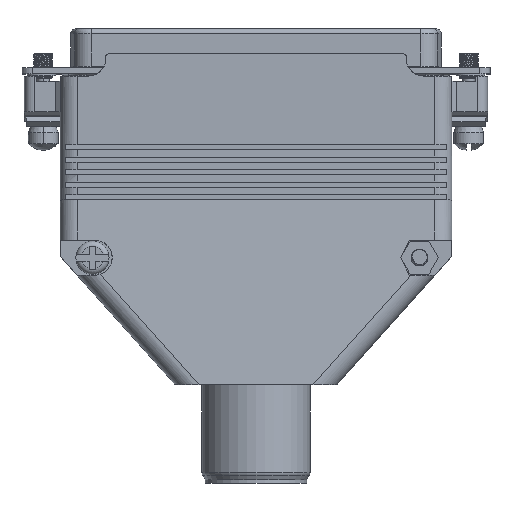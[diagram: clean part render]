
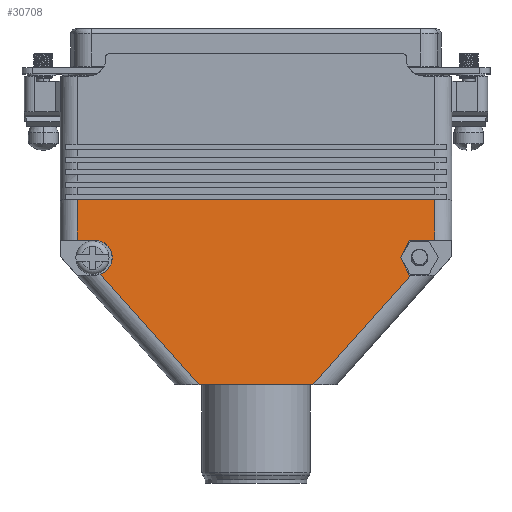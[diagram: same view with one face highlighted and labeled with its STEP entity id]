
A CAD part, top view. The second image highlights one B-rep face of the part: STEP entity #30708.
In plain terms, the highlighted planar face has unit normal (0, 0.093, 0.996).
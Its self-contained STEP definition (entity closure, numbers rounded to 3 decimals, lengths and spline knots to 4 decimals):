
#1512=DIRECTION('',(-1.,0.,0.));
#1513=VECTOR('',#1512,0.6644);
#1514=CARTESIAN_POINT('',(1.6826,0.0747,
0.3839));
#1515=LINE('',#1514,#1513);
#1563=DIRECTION('',(1.,0.,0.));
#1564=VECTOR('',#1563,0.102);
#1565=CARTESIAN_POINT('',(0.3071,0.917,0.3055));
#1566=LINE('',#1565,#1564);
#1571=DIRECTION('',(0.,-0.996,0.093));
#1572=VECTOR('',#1571,0.2376);
#1573=CARTESIAN_POINT('',(0.3071,1.1535,0.2835));
#1574=LINE('',#1573,#1572);
#3018=DIRECTION('',(-1.,0.,0.));
#3019=VECTOR('',#3018,0.0077);
#3020=CARTESIAN_POINT('',(2.253,0.7122,
0.3246));
#3021=LINE('',#3020,#3019);
#3040=DIRECTION('',(-0.665,-0.743,0.069));
#3041=VECTOR('',#3040,0.8575);
#3042=CARTESIAN_POINT('',(2.253,0.7122,
0.3246));
#3043=LINE('',#3042,#3041);
#3044=DIRECTION('',(-0.665,0.743,-0.069));
#3045=VECTOR('',#3044,0.8651);
#3046=CARTESIAN_POINT('',(1.0182,0.0747,
0.3839));
#3047=LINE('',#3046,#3045);
#3048=CARTESIAN_POINT('',(0.4427,0.7179,
0.3241));
#3049=CARTESIAN_POINT('',(0.4487,0.72,
0.3239));
#3050=CARTESIAN_POINT('',(0.4556,0.7233,
0.3236));
#3051=CARTESIAN_POINT('',(0.4636,0.7279,
0.3231));
#3052=CARTESIAN_POINT('',(0.4698,0.7321,
0.3227));
#3053=CARTESIAN_POINT('',(0.4767,0.7375,
0.3222));
#3054=CARTESIAN_POINT('',(0.4834,0.744,
0.3216));
#3055=CARTESIAN_POINT('',(0.4898,0.7515,
0.3209));
#3056=CARTESIAN_POINT('',(0.495,0.7587,
0.3203));
#3057=CARTESIAN_POINT('',(0.5006,0.7682,
0.3194));
#3058=CARTESIAN_POINT('',(0.5057,0.7797,
0.3183));
#3059=CARTESIAN_POINT('',(0.5095,0.7932,
0.3171));
#3060=CARTESIAN_POINT('',(0.512,0.8107,
0.3154));
#3061=CARTESIAN_POINT('',(0.511,0.8318,
0.3135));
#3062=CARTESIAN_POINT('',(0.505,0.8521,
0.3116));
#3063=CARTESIAN_POINT('',(0.4968,0.8678,
0.3101));
#3064=CARTESIAN_POINT('',(0.4888,0.8793,
0.309));
#3065=CARTESIAN_POINT('',(0.4803,0.8885,
0.3082));
#3066=CARTESIAN_POINT('',(0.4718,0.8956,
0.3075));
#3067=CARTESIAN_POINT('',(0.4646,0.9007,
0.307));
#3068=CARTESIAN_POINT('',(0.4561,0.9057,
0.3066));
#3069=CARTESIAN_POINT('',(0.4476,0.9096,
0.3062));
#3070=CARTESIAN_POINT('',(0.4393,0.9125,
0.306));
#3071=CARTESIAN_POINT('',(0.4321,0.9144,
0.3058));
#3072=CARTESIAN_POINT('',(0.423,0.9161,
0.3056));
#3073=CARTESIAN_POINT('',(0.4154,0.917,
0.3055));
#3074=CARTESIAN_POINT('',(0.4091,0.917,0.3055));
#3076=DIRECTION('',(1.,0.,0.));
#3077=VECTOR('',#3076,2.0866);
#3078=CARTESIAN_POINT('',(0.3071,1.1535,0.2835));
#3079=LINE('',#3078,#3077);
#3080=DIRECTION('',(-0.437,-0.896,0.083));
#3081=VECTOR('',#3080,0.1143);
#3082=CARTESIAN_POINT('',(2.2453,0.917,0.3055));
#3083=LINE('',#3082,#3081);
#3084=DIRECTION('',(0.437,-0.896,0.083));
#3085=VECTOR('',#3084,0.1143);
#3086=CARTESIAN_POINT('',(2.1953,0.8146,
0.3151));
#3087=LINE('',#3086,#3085);
#3160=DIRECTION('',(0.,0.996,-0.093));
#3161=VECTOR('',#3160,0.2376);
#3162=CARTESIAN_POINT('',(2.3937,0.917,0.3055));
#3163=LINE('',#3162,#3161);
#3172=DIRECTION('',(1.,0.,0.));
#3173=VECTOR('',#3172,0.1484);
#3174=CARTESIAN_POINT('',(2.2453,0.917,0.3055));
#3175=LINE('',#3174,#3173);
#24162=CARTESIAN_POINT('',(0.3071,1.1535,0.2835));
#24163=CARTESIAN_POINT('',(2.3937,1.1535,0.2835));
#24164=VERTEX_POINT('',#24162);
#24165=VERTEX_POINT('',#24163);
#24166=CARTESIAN_POINT('',(2.253,0.7122,
0.3246));
#24167=CARTESIAN_POINT('',(1.6826,0.0747,
0.3839));
#24168=VERTEX_POINT('',#24166);
#24169=VERTEX_POINT('',#24167);
#24170=CARTESIAN_POINT('',(2.2453,0.7122,0.3246));
#24171=VERTEX_POINT('',#24170);
#24172=CARTESIAN_POINT('',(2.1953,0.8146,
0.3151));
#24173=VERTEX_POINT('',#24172);
#24174=CARTESIAN_POINT('',(2.2453,0.917,0.3055));
#24175=VERTEX_POINT('',#24174);
#24176=CARTESIAN_POINT('',(2.3937,0.917,0.3055));
#24177=VERTEX_POINT('',#24176);
#24178=CARTESIAN_POINT('',(0.3071,0.917,0.3055));
#24179=VERTEX_POINT('',#24178);
#24180=CARTESIAN_POINT('',(0.4091,0.917,0.3055));
#24181=VERTEX_POINT('',#24180);
#24182=VERTEX_POINT('',#3048);
#24183=CARTESIAN_POINT('',(1.0182,0.0747,
0.3839));
#24184=VERTEX_POINT('',#24183);
#30683=CARTESIAN_POINT('',(1.3504,0.6141,0.3337));
#30684=DIRECTION('',(0.,0.093,0.996));
#30685=DIRECTION('',(0.,-0.996,0.093));
#30686=AXIS2_PLACEMENT_3D('',#30683,#30684,#30685);
#30687=PLANE('',#30686);
#30688=ORIENTED_EDGE('',*,*,#30675,.T.);
#30689=ORIENTED_EDGE('',*,*,#28758,.T.);
#30691=ORIENTED_EDGE('',*,*,#30690,.T.);
#30693=ORIENTED_EDGE('',*,*,#30692,.T.);
#30694=ORIENTED_EDGE('',*,*,#28816,.F.);
#30695=ORIENTED_EDGE('',*,*,#28834,.F.);
#30697=ORIENTED_EDGE('',*,*,#30696,.T.);
#30699=ORIENTED_EDGE('',*,*,#30698,.F.);
#30701=ORIENTED_EDGE('',*,*,#30700,.F.);
#30703=ORIENTED_EDGE('',*,*,#30702,.T.);
#30704=ORIENTED_EDGE('',*,*,#30646,.T.);
#30705=ORIENTED_EDGE('',*,*,#30663,.F.);
#30706=EDGE_LOOP('',(#30688,#30689,#30691,#30693,#30694,#30695,#30697,#30699,
#30701,#30703,#30704,#30705));
#30707=FACE_OUTER_BOUND('',#30706,.F.);
#30708=ADVANCED_FACE('',(#30707),#30687,.T.);
#3075=B_SPLINE_CURVE_WITH_KNOTS('',3,(#3048,#3049,#3050,#3051,#3052,#3053,#3054,
#3055,#3056,#3057,#3058,#3059,#3060,#3061,#3062,#3063,#3064,#3065,#3066,#3067,
#3068,#3069,#3070,#3071,#3072,#3073,#3074),.UNSPECIFIED.,.F.,.F.,(4,1,1,1,1,1,1,
1,1,1,1,1,1,1,1,1,1,1,1,1,1,1,1,1,4),(0.,0.0156,0.0313,0.0469,0.0625,
0.0938,0.125,0.1563,0.1875,0.25,0.3125,0.375,0.5,0.625,
0.6875,0.75,0.8125,0.8438,0.875,0.9063,0.9375,0.9531,
0.9688,0.9844,1.),.UNSPECIFIED.);
#28758=EDGE_CURVE('',#24169,#24184,#1515,.T.);
#28816=EDGE_CURVE('',#24179,#24181,#1566,.T.);
#28834=EDGE_CURVE('',#24164,#24179,#1574,.T.);
#30646=EDGE_CURVE('',#24173,#24171,#3087,.T.);
#30663=EDGE_CURVE('',#24168,#24171,#3021,.T.);
#30675=EDGE_CURVE('',#24168,#24169,#3043,.T.);
#30690=EDGE_CURVE('',#24184,#24182,#3047,.T.);
#30692=EDGE_CURVE('',#24182,#24181,#3075,.T.);
#30696=EDGE_CURVE('',#24164,#24165,#3079,.T.);
#30698=EDGE_CURVE('',#24177,#24165,#3163,.T.);
#30700=EDGE_CURVE('',#24175,#24177,#3175,.T.);
#30702=EDGE_CURVE('',#24175,#24173,#3083,.T.);
